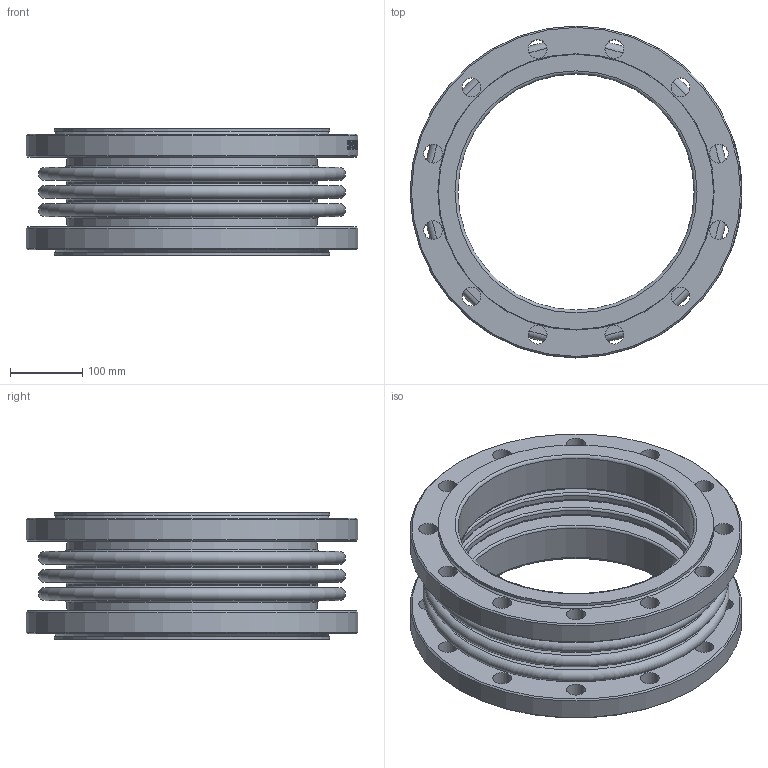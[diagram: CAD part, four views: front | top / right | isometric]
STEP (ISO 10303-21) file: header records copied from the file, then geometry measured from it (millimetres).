
FILE_DESCRIPTION(/* description */ ('D140-02146','CAx-IF Rec.Pracs.---Representation and Presentation of Product Manufacturing Information (PMI)---4.0---2014-10-13'),/* implementation_level */ '2;1');
FILE_NAME(/* name */ '',/* time_stamp */ '2026-04-16T22:42:00+03:00',/* author */ ('DN.RU'),/* organization */ ('DN.RU'),/* preprocessor_version */ 'ST-DEVELOPER v20',/* originating_system */ 'Autodesk Inventor 2025',/* authorisation */ '');
FILE_SCHEMA (('AP242_MANAGED_MODEL_BASED_3D_ENGINEERING_MIM_LF { 1 0 10303 442 1 1 4 }'));
Length unit declared in the file: millimetre
Products named in the file (1): CB-3232P-F
Bounding box: 460 x 460 x 176 mm (x, y, z)
Volume: 6451947.3 mm3; surface area: 1355826.1 mm2
Topology: 1 solids, 1 shells, 300 faces, 771 edges, 514 vertices
Faces by surface type: plane 113, bspline 102, cylinder 59, torus 20, cone 6
Full cylindrical faces by diameter (mm): 26 x24, 327.5 x2, 341.5 x2, 347.5 x4, 357.5 x2, 381.5 x2, 460 x2
Entity records: 12998 total; most frequent: CARTESIAN_POINT 5319, ORIENTED_EDGE 1542, DIRECTION 1297, EDGE_CURVE 771, VERTEX_POINT 514, AXIS2_PLACEMENT_3D 492, EDGE_LOOP 391, STYLED_ITEM 382
